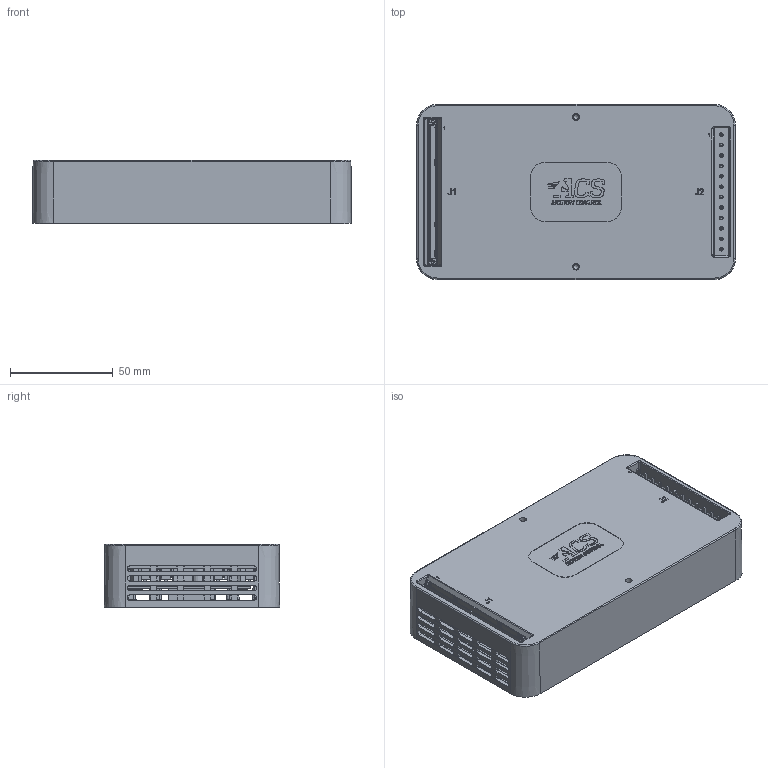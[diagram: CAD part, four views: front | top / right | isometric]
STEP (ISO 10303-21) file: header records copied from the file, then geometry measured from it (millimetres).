
FILE_DESCRIPTION((''),'2;1');
FILE_NAME('C:\PROJECTS\ACS\NPMpc\SB-20111-XXX-LF-A.stp','2017-01-10T14:49:37',('Yuriy'),(''),'Autodesk Inventor 2012','Autodesk Inventor 2012','');
FILE_SCHEMA(('AUTOMOTIVE_DESIGN { 1 0 10303 214 1 1 1 1 }'));
Length unit declared in the file: millimetre
Products named in the file (20): SB-20111-XXX-LF-A; HE-20100-000-A; CV-20100-000-A; SB-16732-200-LF-B2a; PC-16732-200-LF-B2; Samtec-TW-07-06-L-D-250-SM-A; Part1; SP-3M305-080-LF; SB-20121-XXX-LF-A; PC-20131-000-LF-A; Samtec-HPW-12-04-T-S-200-417; TLE-107-01-X-DV-BASIC; Part2; 536272074; Part3; SP-18000-100-LF-A; SP-18000-400-LF-A; SP-18000-300-LF-A; SM-PM306-000-LF; WA-00003-000
Assembly tree (38 placements, depth 3):
  SB-20111-XXX-LF-A
    HE-20100-000-A
    CV-20100-000-A
    SB-16732-200-LF-B2a
      PC-16732-200-LF-B2
      Samtec-TW-07-06-L-D-250-SM-A
      Part1
    SP-3M305-080-LF  x3
    SB-20121-XXX-LF-A
      PC-20131-000-LF-A
      Samtec-HPW-12-04-T-S-200-417
      TLE-107-01-X-DV-BASIC
      Part2
      536272074
      Part3
    SP-18000-100-LF-A
    SP-18000-400-LF-A
    SP-18000-300-LF-A  x6
    SM-PM306-000-LF  x11
    WA-00003-000  x3
Bounding box: 155.54 x 85.54 x 30.8 mm (x, y, z)
Volume: 135708 mm3; surface area: 136409.3 mm2
Topology: 38 solids, 38 shells, 5579 faces, 15199 edges, 9891 vertices
Faces by surface type: plane 4391, cylinder 800, bspline 270, cone 71, torus 39, sphere 8
Full cylindrical faces by diameter (mm): 0.6 x1, 0.7 x1, 0.8 x1, 0.9 x1, 1 x14, 1.092 x2, 1.27 x2, 1.75 x12, 2.459 x10, 3 x11, 3.2 x8, 3.3 x8, 5.35 x11, 5.6 x16, 6.6 x11, 7 x3, 7.5 x6
Entity records: 174217 total; most frequent: CARTESIAN_POINT 37692, ORIENTED_EDGE 28736, DIRECTION 25794, EDGE_CURVE 14368, VECTOR 12074, LINE 12074, VERTEX_POINT 9412, AXIS2_PLACEMENT_3D 6860
